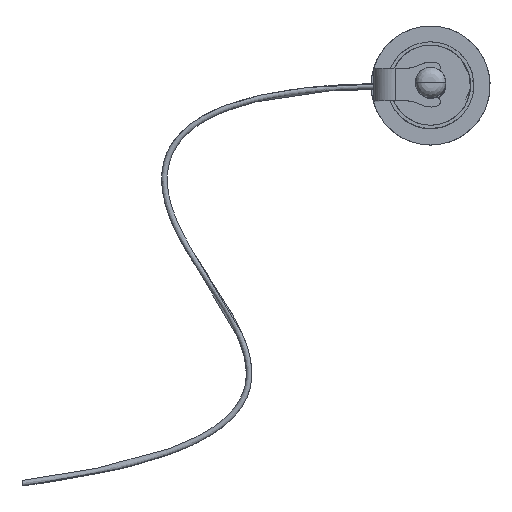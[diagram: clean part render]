
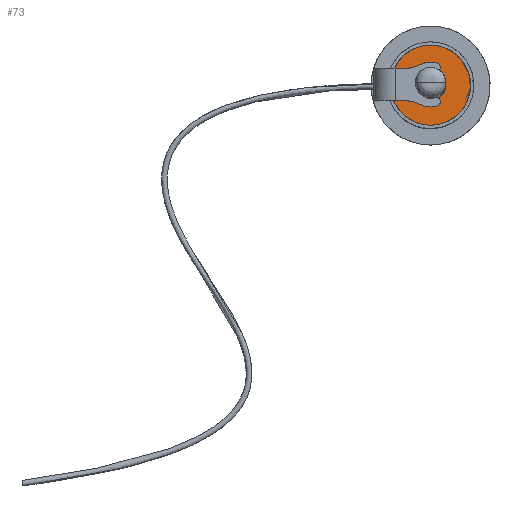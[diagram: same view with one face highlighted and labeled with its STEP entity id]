
A CAD part, top view. The second image highlights one B-rep face of the part: STEP entity #73.
In plain terms, the highlighted free-form (B-spline) face has degree [1, 1] with [2, 2] control points.
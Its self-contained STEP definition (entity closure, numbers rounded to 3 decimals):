
#19=B_SPLINE_SURFACE_WITH_KNOTS('',1,1,((#2679,#2680),(#2681,#2682)),
 .UNSPECIFIED.,.F.,.F.,.F.,(2,2),(2,2),(-37.744,38.194),
(-74.968,0.97),.UNSPECIFIED.);
#73=ADVANCED_FACE('',(#137),#19,.T.);
#137=FACE_OUTER_BOUND('',#201,.T.);
#201=EDGE_LOOP('',(#311,#312));
#311=ORIENTED_EDGE('',*,*,#1473,.T.);
#312=ORIENTED_EDGE('',*,*,#1474,.T.);
#577=PCURVE('',#19,#843);
#578=PCURVE('',#19,#844);
#584=PCURVE('',#1819,#850);
#585=PCURVE('',#1820,#851);
#843=DEFINITIONAL_REPRESENTATION('',(#1601),#5785);
#844=DEFINITIONAL_REPRESENTATION('',(#1603),#5785);
#850=DEFINITIONAL_REPRESENTATION('',(#1118),#5785);
#851=DEFINITIONAL_REPRESENTATION('',(#1119),#5785);
#1118=B_SPLINE_CURVE_WITH_KNOTS('',1,(#2761,#2762),.UNSPECIFIED.,.F.,.F.,
(2,2),(-116.239,0.),.UNSPECIFIED.);
#1119=B_SPLINE_CURVE_WITH_KNOTS('',1,(#2763,#2764),.UNSPECIFIED.,.F.,.F.,
(2,2),(-232.478,-116.239),.UNSPECIFIED.);
#1340=SURFACE_CURVE('',#1600,(#577,#585),.PCURVE_S1.);
#1341=SURFACE_CURVE('',#1602,(#578,#584),.PCURVE_S1.);
#1473=EDGE_CURVE('',#1736,#1738,#1340,.T.);
#1474=EDGE_CURVE('',#1738,#1736,#1341,.T.);
#1600=(
BOUNDED_CURVE()
B_SPLINE_CURVE(2,(#2711,#2712,#2713,#2714,#2715),.UNSPECIFIED.,.F.,.F.)
B_SPLINE_CURVE_WITH_KNOTS((3,2,3),(-232.478,-174.358,
-116.239),.UNSPECIFIED.)
CURVE()
GEOMETRIC_REPRESENTATION_ITEM()
RATIONAL_B_SPLINE_CURVE((1.,0.707,1.,0.707,1.))
REPRESENTATION_ITEM('')
);
#1601=(
BOUNDED_CURVE()
B_SPLINE_CURVE(2,(#2716,#2717,#2718,#2719,#2720),.UNSPECIFIED.,.F.,.F.)
B_SPLINE_CURVE_WITH_KNOTS((3,2,3),(-232.478,-174.358,
-116.239),.UNSPECIFIED.)
CURVE()
GEOMETRIC_REPRESENTATION_ITEM()
RATIONAL_B_SPLINE_CURVE((1.,0.707,1.,0.707,1.))
REPRESENTATION_ITEM('')
);
#1602=(
BOUNDED_CURVE()
B_SPLINE_CURVE(2,(#2721,#2722,#2723,#2724,#2725),.UNSPECIFIED.,.F.,.F.)
B_SPLINE_CURVE_WITH_KNOTS((3,2,3),(-116.239,-58.119,
0.),.UNSPECIFIED.)
CURVE()
GEOMETRIC_REPRESENTATION_ITEM()
RATIONAL_B_SPLINE_CURVE((1.,0.707,1.,0.707,1.))
REPRESENTATION_ITEM('')
);
#1603=(
BOUNDED_CURVE()
B_SPLINE_CURVE(2,(#2726,#2727,#2728,#2729,#2730),.UNSPECIFIED.,.F.,.F.)
B_SPLINE_CURVE_WITH_KNOTS((3,2,3),(-116.239,-58.119,
0.),.UNSPECIFIED.)
CURVE()
GEOMETRIC_REPRESENTATION_ITEM()
RATIONAL_B_SPLINE_CURVE((1.,0.707,1.,0.707,1.))
REPRESENTATION_ITEM('')
);
#1736=VERTEX_POINT('',#2707);
#1738=VERTEX_POINT('',#2709);
#1819=(
BOUNDED_SURFACE()
B_SPLINE_SURFACE(2,1,((#2687,#2688),(#2689,#2690),(#2691,#2692),(#2693,
#2694),(#2695,#2696)),.UNSPECIFIED.,.F.,.F.,.F.)
B_SPLINE_SURFACE_WITH_KNOTS((3,2,3),(2,2),(0.,58.119,116.239),
(0.,4.),.UNSPECIFIED.)
GEOMETRIC_REPRESENTATION_ITEM()
RATIONAL_B_SPLINE_SURFACE(((1.,1.),(0.707,0.707),
(1.,1.),(0.707,0.707),(1.,1.)))
REPRESENTATION_ITEM('')
SURFACE()
);
#1820=(
BOUNDED_SURFACE()
B_SPLINE_SURFACE(2,1,((#2697,#2698),(#2699,#2700),(#2701,#2702),(#2703,
#2704),(#2705,#2706)),.UNSPECIFIED.,.F.,.F.,.F.)
B_SPLINE_SURFACE_WITH_KNOTS((3,2,3),(2,2),(116.239,174.358,
232.478),(0.,4.),.UNSPECIFIED.)
GEOMETRIC_REPRESENTATION_ITEM()
RATIONAL_B_SPLINE_SURFACE(((1.,1.),(0.707,0.707),
(1.,1.),(0.707,0.707),(1.,1.)))
REPRESENTATION_ITEM('')
SURFACE()
);
#2679=CARTESIAN_POINT('',(922.616,-485.772,-836.191));
#2680=CARTESIAN_POINT('',(998.555,-485.772,-836.191));
#2681=CARTESIAN_POINT('',(922.616,-561.71,-836.191));
#2682=CARTESIAN_POINT('',(998.555,-561.71,-836.191));
#2687=CARTESIAN_POINT('',(997.585,-523.515,-836.191));
#2688=CARTESIAN_POINT('',(997.585,-523.515,-840.191));
#2689=CARTESIAN_POINT('',(997.81,-560.515,-836.191));
#2690=CARTESIAN_POINT('',(997.81,-560.515,-840.191));
#2691=CARTESIAN_POINT('',(960.811,-560.74,-836.191));
#2692=CARTESIAN_POINT('',(960.811,-560.74,-840.191));
#2693=CARTESIAN_POINT('',(923.811,-560.965,-836.191));
#2694=CARTESIAN_POINT('',(923.811,-560.965,-840.191));
#2695=CARTESIAN_POINT('',(923.586,-523.966,-836.191));
#2696=CARTESIAN_POINT('',(923.586,-523.966,-840.191));
#2697=CARTESIAN_POINT('',(923.586,-523.966,-836.191));
#2698=CARTESIAN_POINT('',(923.586,-523.966,-840.191));
#2699=CARTESIAN_POINT('',(923.361,-486.967,-836.191));
#2700=CARTESIAN_POINT('',(923.361,-486.967,-840.191));
#2701=CARTESIAN_POINT('',(960.36,-486.741,-836.191));
#2702=CARTESIAN_POINT('',(960.36,-486.741,-840.191));
#2703=CARTESIAN_POINT('',(997.359,-486.516,-836.191));
#2704=CARTESIAN_POINT('',(997.359,-486.516,-840.191));
#2705=CARTESIAN_POINT('',(997.585,-523.515,-836.191));
#2706=CARTESIAN_POINT('',(997.585,-523.515,-840.191));
#2707=CARTESIAN_POINT('',(997.585,-523.515,-836.191));
#2709=CARTESIAN_POINT('',(923.586,-523.966,-836.191));
#2711=CARTESIAN_POINT('',(997.585,-523.515,-836.191));
#2712=CARTESIAN_POINT('',(997.359,-486.516,-836.191));
#2713=CARTESIAN_POINT('',(960.36,-486.741,-836.191));
#2714=CARTESIAN_POINT('',(923.361,-486.967,-836.191));
#2715=CARTESIAN_POINT('',(923.586,-523.966,-836.191));
#2716=CARTESIAN_POINT('',(0.,0.));
#2717=CARTESIAN_POINT('',(-36.999,-0.225));
#2718=CARTESIAN_POINT('',(-36.774,-37.225));
#2719=CARTESIAN_POINT('',(-36.549,-74.224));
#2720=CARTESIAN_POINT('',(0.451,-73.999));
#2721=CARTESIAN_POINT('',(923.586,-523.966,-836.191));
#2722=CARTESIAN_POINT('',(923.811,-560.965,-836.191));
#2723=CARTESIAN_POINT('',(960.811,-560.74,-836.191));
#2724=CARTESIAN_POINT('',(997.81,-560.515,-836.191));
#2725=CARTESIAN_POINT('',(997.585,-523.515,-836.191));
#2726=CARTESIAN_POINT('',(0.451,-73.999));
#2727=CARTESIAN_POINT('',(37.45,-73.773));
#2728=CARTESIAN_POINT('',(37.225,-36.774));
#2729=CARTESIAN_POINT('',(36.999,0.225));
#2730=CARTESIAN_POINT('',(0.,0.));
#2761=CARTESIAN_POINT('',(116.239,0.));
#2762=CARTESIAN_POINT('',(0.,0.));
#2763=CARTESIAN_POINT('',(232.478,0.));
#2764=CARTESIAN_POINT('',(116.239,0.));
#5785=(
GEOMETRIC_REPRESENTATION_CONTEXT(2)
PARAMETRIC_REPRESENTATION_CONTEXT()
REPRESENTATION_CONTEXT('pspace','')
);
